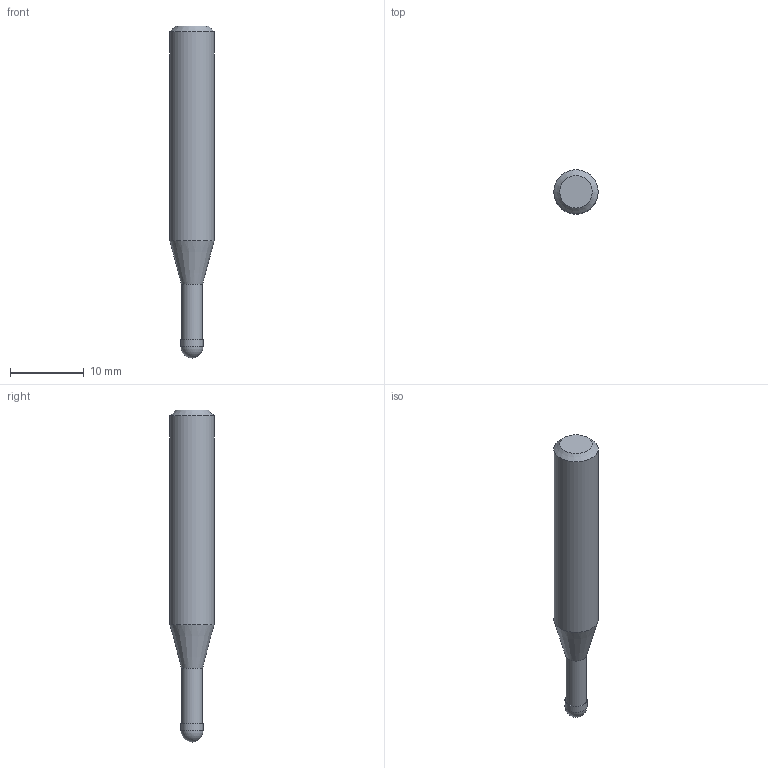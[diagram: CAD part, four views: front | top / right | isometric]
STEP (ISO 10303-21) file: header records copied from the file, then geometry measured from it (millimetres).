
FILE_DESCRIPTION((''),'2;1');
FILE_NAME('C:\Users\nsx150\AppData\Local\Temp\Mastercam 2021\QT8KEW0Y7J\TEMP.step','2021-04-23T11:21:46',(''),(''),'STEP Write','Mastercam 2021 ... CNC Software, Inc.','');
FILE_SCHEMA(('AUTOMOTIVE_DESIGN'));
Length unit declared in the file: millimetre
Products named in the file (1): None
Bounding box: 6 x 6 x 45 mm (x, y, z)
Volume: 974.1 mm3; surface area: 756.3 mm2
Topology: 2 solids, 2 shells, 9 faces, 14 edges, 8 vertices
Faces by surface type: plane 3, cylinder 3, cone 2, sphere 1
Full cylindrical faces by diameter (mm): 2.85 x1, 3 x1, 6 x1
Entity records: 211 total; most frequent: DIRECTION 36, CARTESIAN_POINT 25, AXIS2_PLACEMENT_3D 18, ORIENTED_EDGE 14, EDGE_LOOP 14, STYLED_ITEM 12, ADVANCED_FACE 9, FACE_BOUND 8
